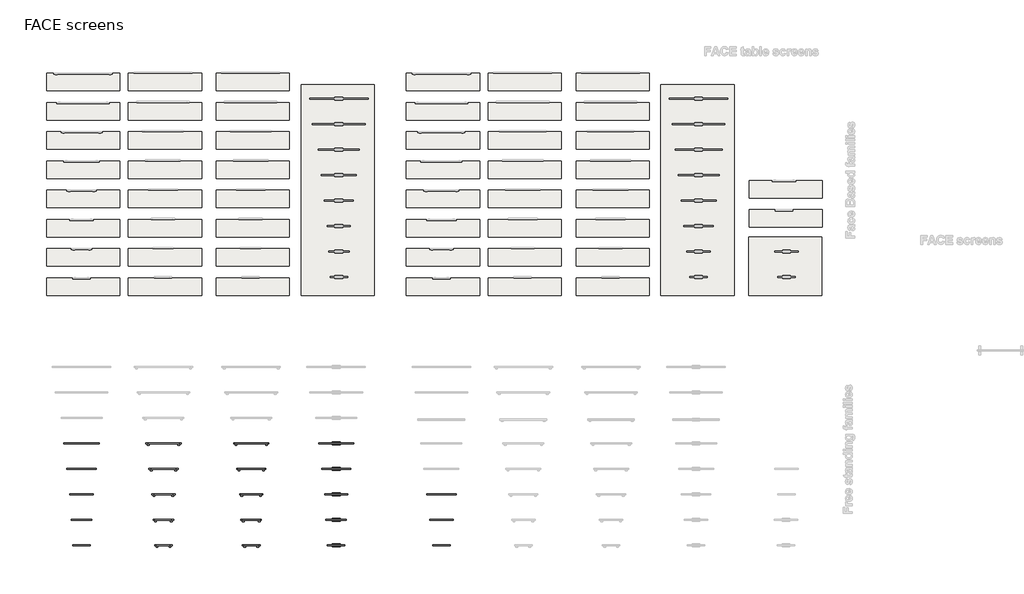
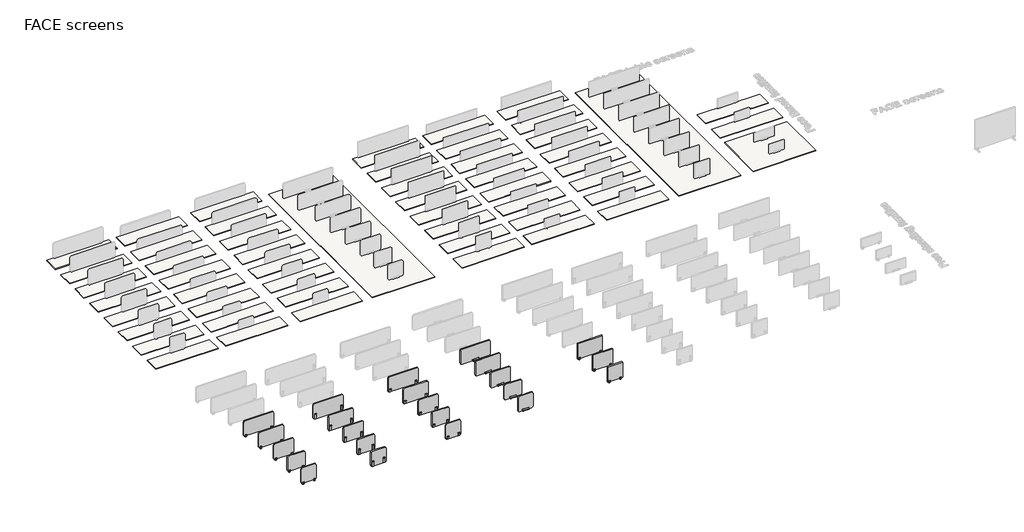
# One storey, part 1 of 5: 53 slabs, 23 furniture elements.
"""IFC4 building model written with IfcOpenShell, lengths in millimetres."""

from ifc_helpers import new_model, si_unit, frame, origin, place, context, project, spatial, polyline, outline, extrude, transform, mapped, element, save
from components import face_table_screen_100_3_95eb67a5, face_table_screen_100_3_8f296eb0, face_table_screen_120_3_0d3e1d8e, face_table_screen_120_3_c73d841a, face_table_screen_60_3_92aabae8, face_table_screen_60_3_c9fd3a59, face_table_screen_70_3_d5a7254b, face_table_screen_70_3_a536ad73, face_table_screen_80_3_7f900c10, face_table_screen_80_3_a9bba97a, face_table_screen_above_the_table_top_100_2_3b1e4d39, face_table_screen_above_the_table_top_120_2_89d26c9a, face_table_screen_above_the_table_top_60_2_7d289e71, face_table_screen_above_the_table_top_70_2_15536117, face_table_screen_above_the_table_top_706s06y_37ab495f, face_table_screen_above_the_table_top_706s08y_08bfc1dc, face_table_screen_above_the_table_top_706s10y_24b1e36f, face_table_screen_above_the_table_top_80_2_a9562ace, face_free_standing_table_screen_fb_100_1_674c9dfa, face_free_standing_table_screen_fb_120_1_8b9ce8e5, face_free_standing_table_screen_fb_60_1_81a4c0ed, face_free_standing_table_screen_fb_70_1_2_cb3a96f7, face_free_standing_table_screen_fb_80_1_d223b82d

model = new_model("IFC4")

# Units and contexts
model_context = context("Model", 3, world=origin())
ifc_project = project(units=[si_unit("LENGTHUNIT", "METRE", prefix="MILLI")], contexts=[model_context])

# Site, building, storey
site = spatial("IfcSite", under=ifc_project)
building = spatial("IfcBuilding", under=site)
storey = spatial("IfcBuildingStorey", under=building, Name="FACE screens", Elevation=0.0)

# Furniture
placement = place(None, origin())
face_table_screen_100_3_shape = face_table_screen_100_3_95eb67a5(model_context)
element("IfcFurniture", 1, ObjectType="Face Table Screen : 100-3", at=placement, inside=storey, context=model_context, shape_type="MappedRepresentation", body=[
    mapped(face_table_screen_100_3_shape, transform((-7165.8177914, 14756.5784777, 720.0), x_axis=(-1.0, 0.0, 0.0), y_axis=(0.0, -1.0, 0.0), z_axis=(0.0, 0.0, 1.0))),
])
face_table_screen_100_3_2_shape = face_table_screen_100_3_8f296eb0(model_context)
element("IfcFurniture", 2, ObjectType="Face Table Screen : 100-3", at=placement, inside=storey, context=model_context, shape_type="MappedRepresentation", body=[
    mapped(face_table_screen_100_3_2_shape, transform((-10165.8177914, 14756.5784777, 720.0), x_axis=(-1.0, 0.0, 0.0), y_axis=(0.0, -1.0, 0.0), z_axis=(0.0, 0.0, 1.0))),
])
face_table_screen_120_3_shape = face_table_screen_120_3_0d3e1d8e(model_context)
element("IfcFurniture", 3, ObjectType="Face Table Screen : 120-3", at=placement, inside=storey, context=model_context, shape_type="MappedRepresentation", body=[
    mapped(face_table_screen_120_3_shape, transform((-7165.8177914, 15628.0070491, 720.0), x_axis=(-1.0, 0.0, 0.0), y_axis=(0.0, -1.0, 0.0), z_axis=(0.0, 0.0, 1.0))),
])
face_table_screen_120_3_2_shape = face_table_screen_120_3_c73d841a(model_context)
element("IfcFurniture", 4, ObjectType="Face Table Screen : 120-3", at=placement, inside=storey, context=model_context, shape_type="MappedRepresentation", body=[
    mapped(face_table_screen_120_3_2_shape, transform((-10165.8177914, 15628.0070491, 720.0), x_axis=(-1.0, 0.0, 0.0), y_axis=(0.0, -1.0, 0.0), z_axis=(0.0, 0.0, 1.0))),
])
face_table_screen_60_3_shape = face_table_screen_60_3_92aabae8(model_context)
element("IfcFurniture", 5, ObjectType="Face Table Screen : 60-3", at=placement, inside=storey, context=model_context, shape_type="MappedRepresentation", body=[
    mapped(face_table_screen_60_3_shape, transform((-7165.8177914, 12142.2927634, 720.0), x_axis=(-1.0000000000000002, 0.0, 0.0), y_axis=(0.0, -1.0000000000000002, 0.0), z_axis=(0.0, 0.0, 1.0))),
])
face_table_screen_60_3_2_shape = face_table_screen_60_3_c9fd3a59(model_context)
element("IfcFurniture", 6, ObjectType="Face Table Screen : 60-3", at=placement, inside=storey, context=model_context, shape_type="MappedRepresentation", body=[
    mapped(face_table_screen_60_3_2_shape, transform((-10165.8177914, 12142.2927634, 720.0), x_axis=(-1.0000000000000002, 0.0, 0.0), y_axis=(0.0, -1.0000000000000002, 0.0), z_axis=(0.0, 0.0, 1.0))),
])
face_table_screen_70_3_shape = face_table_screen_70_3_d5a7254b(model_context)
element("IfcFurniture", 7, ObjectType="Face Table Screen : 70-3", at=placement, inside=storey, context=model_context, shape_type="MappedRepresentation", body=[
    mapped(face_table_screen_70_3_shape, transform((-7165.8177914, 13013.7213348, 720.0), x_axis=(-1.0000000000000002, 0.0, 0.0), y_axis=(0.0, -1.0000000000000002, 0.0), z_axis=(0.0, 0.0, 1.0))),
])
face_table_screen_70_3_2_shape = face_table_screen_70_3_a536ad73(model_context)
element("IfcFurniture", 8, ObjectType="Face Table Screen : 70-3", at=placement, inside=storey, context=model_context, shape_type="MappedRepresentation", body=[
    mapped(face_table_screen_70_3_2_shape, transform((-10165.8177914, 13013.7213348, 720.0), x_axis=(-1.0000000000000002, 0.0, 0.0), y_axis=(0.0, -1.0000000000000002, 0.0), z_axis=(0.0, 0.0, 1.0))),
])
face_table_screen_80_3_shape = face_table_screen_80_3_7f900c10(model_context)
element("IfcFurniture", 9, ObjectType="Face Table Screen : 80-3", at=placement, inside=storey, context=model_context, shape_type="MappedRepresentation", body=[
    mapped(face_table_screen_80_3_shape, transform((-7165.8177914, 13885.1499063, 720.0), x_axis=(-1.0, 0.0, 0.0), y_axis=(0.0, -1.0, 0.0), z_axis=(0.0, 0.0, 1.0))),
])
face_table_screen_80_3_2_shape = face_table_screen_80_3_a9bba97a(model_context)
element("IfcFurniture", 10, ObjectType="Face Table Screen : 80-3", at=placement, inside=storey, context=model_context, shape_type="MappedRepresentation", body=[
    mapped(face_table_screen_80_3_2_shape, transform((-10165.8177914, 13885.1499063, 720.0), x_axis=(-1.0, 0.0, 0.0), y_axis=(0.0, -1.0, 0.0), z_axis=(0.0, 0.0, 1.0))),
])
face_table_screen_above_the_table_top_100_2_shape = face_table_screen_above_the_table_top_100_2_3b1e4d39(model_context)
element("IfcFurniture", 11, ObjectType="Face Table Screen above the Table Top : 100-2", at=placement, inside=storey, context=model_context, shape_type="MappedRepresentation", body=[
    mapped(face_table_screen_above_the_table_top_100_2_shape, transform((-12965.8177914, 14756.5784777, 720.0), x_axis=(-1.0, 0.0, 0.0), y_axis=(0.0, -1.0, 0.0), z_axis=(0.0, 0.0, 1.0))),
])
face_table_screen_above_the_table_top_120_2_shape = face_table_screen_above_the_table_top_120_2_89d26c9a(model_context)
element("IfcFurniture", 12, ObjectType="Face Table Screen above the Table Top : 120-2", at=placement, inside=storey, context=model_context, shape_type="MappedRepresentation", body=[
    mapped(face_table_screen_above_the_table_top_120_2_shape, transform((-12965.8177914, 15628.0070491, 720.0), x_axis=(-1.0, 0.0, 0.0), y_axis=(0.0, -1.0, 0.0), z_axis=(0.0, 0.0, 1.0))),
])
face_table_screen_above_the_table_top_60_2_shape = face_table_screen_above_the_table_top_60_2_7d289e71(model_context)
element("IfcFurniture", 13, ObjectType="Face Table Screen above the Table Top : 60-2", at=placement, inside=storey, context=model_context, shape_type="MappedRepresentation", body=[
    mapped(face_table_screen_above_the_table_top_60_2_shape, transform((-12965.8177914, 12142.2927634, 720.0), x_axis=(-1.0000000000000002, 0.0, 0.0), y_axis=(0.0, -1.0000000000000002, 0.0), z_axis=(0.0, 0.0, 1.0))),
])
face_table_screen_above_the_table_top_70_2_shape = face_table_screen_above_the_table_top_70_2_15536117(model_context)
element("IfcFurniture", 14, ObjectType="Face Table Screen above the Table Top : 70-2", at=placement, inside=storey, context=model_context, shape_type="MappedRepresentation", body=[
    mapped(face_table_screen_above_the_table_top_70_2_shape, transform((-12965.8177914, 13013.7213348, 720.0), x_axis=(-1.0000000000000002, 0.0, 0.0), y_axis=(0.0, -1.0000000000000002, 0.0), z_axis=(0.0, 0.0, 1.0))),
])
face_table_screen_above_the_table_top_706s06y_shape = face_table_screen_above_the_table_top_706s06y_37ab495f(model_context)
element("IfcFurniture", 15, ObjectType="Face Table Screen above the Table Top : 706S06Y", at=placement, inside=storey, context=model_context, shape_type="MappedRepresentation", body=[
    mapped(face_table_screen_above_the_table_top_706s06y_shape, transform((-665.8177914, 12142.2927634, 720.0), x_axis=(-1.0000000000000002, 0.0, 0.0), y_axis=(0.0, -1.0000000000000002, 0.0), z_axis=(0.0, 0.0, 1.0))),
])
face_table_screen_above_the_table_top_706s08y_shape = face_table_screen_above_the_table_top_706s08y_08bfc1dc(model_context)
element("IfcFurniture", 16, ObjectType="Face Table Screen above the Table Top : 706S08Y", at=placement, inside=storey, context=model_context, shape_type="MappedRepresentation", body=[
    mapped(face_table_screen_above_the_table_top_706s08y_shape, transform((-665.8177914, 13013.7213348, 720.0), x_axis=(-1.0, 0.0, 0.0), y_axis=(0.0, -1.0, 0.0), z_axis=(0.0, 0.0, 1.0))),
])
face_table_screen_above_the_table_top_706s10y_shape = face_table_screen_above_the_table_top_706s10y_24b1e36f(model_context)
element("IfcFurniture", 17, ObjectType="Face Table Screen above the Table Top : 706S10Y", at=placement, inside=storey, context=model_context, shape_type="MappedRepresentation", body=[
    mapped(face_table_screen_above_the_table_top_706s10y_shape, transform((-665.8177914, 13885.1499063, 720.0), x_axis=(-1.0, 0.0, 0.0), y_axis=(0.0, -1.0, 0.0), z_axis=(0.0, 0.0, 1.0))),
])
face_table_screen_above_the_table_top_80_2_shape = face_table_screen_above_the_table_top_80_2_a9562ace(model_context)
element("IfcFurniture", 18, ObjectType="Face Table Screen above the Table Top : 80-2", at=placement, inside=storey, context=model_context, shape_type="MappedRepresentation", body=[
    mapped(face_table_screen_above_the_table_top_80_2_shape, transform((-12965.8177914, 13885.1499063, 720.0), x_axis=(-1.0, 0.0, 0.0), y_axis=(0.0, -1.0, 0.0), z_axis=(0.0, 0.0, 1.0))),
])
face_free_standing_table_screen_fb_100_1_shape = face_free_standing_table_screen_fb_100_1_674c9dfa(model_context)
element("IfcFurniture", 19, ObjectType="Face free-standing Table Screen : 100-1", at=placement, inside=storey, context=model_context, shape_type="MappedRepresentation", body=[
    mapped(face_free_standing_table_screen_fb_100_1_shape, transform((-4260.9202842, 14756.5784777, 720.0), x_axis=(-1.0, 0.0, 0.0), y_axis=(0.0, -1.0, 0.0), z_axis=(0.0, 0.0, 1.0))),
])
face_free_standing_table_screen_fb_120_1_shape = face_free_standing_table_screen_fb_120_1_8b9ce8e5(model_context)
element("IfcFurniture", 20, ObjectType="Face free-standing Table Screen : 120-1", at=placement, inside=storey, context=model_context, shape_type="MappedRepresentation", body=[
    mapped(face_free_standing_table_screen_fb_120_1_shape, transform((-4260.9202842, 15628.0070491, 720.0), x_axis=(-1.0, 0.0, 0.0), y_axis=(0.0, -1.0, 0.0), z_axis=(0.0, 0.0, 1.0))),
])
face_free_standing_table_screen_fb_60_1_shape = face_free_standing_table_screen_fb_60_1_81a4c0ed(model_context)
element("IfcFurniture", 21, ObjectType="Face free-standing Table Screen : 60-1", at=placement, inside=storey, context=model_context, shape_type="MappedRepresentation", body=[
    mapped(face_free_standing_table_screen_fb_60_1_shape, transform((-4260.9202842, 12142.2927634, 720.0), x_axis=(-1.0, 0.0, 0.0), y_axis=(0.0, -1.0, 0.0), z_axis=(0.0, 0.0, 1.0))),
])
face_free_standing_table_screen_fb_70_1_2_shape = face_free_standing_table_screen_fb_70_1_2_cb3a96f7(model_context)
element("IfcFurniture", 22, ObjectType="Face free-standing Table Screen : 70-1", at=placement, inside=storey, context=model_context, shape_type="MappedRepresentation", body=[
    mapped(face_free_standing_table_screen_fb_70_1_2_shape, transform((-4260.9202842, 13013.7213348, 720.0), x_axis=(-1.0, 0.0, 0.0), y_axis=(0.0, -1.0, 0.0), z_axis=(0.0, 0.0, 1.0))),
])
face_free_standing_table_screen_fb_80_1_shape = face_free_standing_table_screen_fb_80_1_d223b82d(model_context)
element("IfcFurniture", 23, ObjectType="Face free-standing Table Screen : 80-1", at=placement, inside=storey, context=model_context, shape_type="MappedRepresentation", body=[
    mapped(face_free_standing_table_screen_fb_80_1_shape, transform((-4260.9202842, 13885.1499063, 720.0), x_axis=(-1.0, 0.0, 0.0), y_axis=(0.0, -1.0, 0.0), z_axis=(0.0, 0.0, 1.0))),
])

# Slabs
element("IfcSlab", 24, ObjectType="Table Top 22", at=placement, inside=storey, context=model_context, shape_type="SweptSolid", body=[
    extrude(outline(polyline([(12337.7804077, 22692.7717693), (12337.7804077, 20692.7717693), (9837.7804077, 20692.7717693), (9837.7804077, 22692.7717693), (12337.7804077, 22692.7717693)])), frame((0.0, 0.0, 698.0), z_axis=(0.0, 0.0, 1.0), x_axis=(1.0, 0.0, 0.0)), (0.0, 0.0, 1.0), 22.0),
])
element("IfcSlab", 25, ObjectType="Table Top 22", at=placement, inside=storey, context=model_context, shape_type="SweptSolid", body=[
    extrude(outline(polyline([(9337.7804077, 27892.7717693), (9337.7804077, 20692.7717693), (6837.7804077, 20692.7717693), (6837.7804077, 27892.7717693), (9337.7804077, 27892.7717693)])), frame((0.0, 0.0, 698.0), z_axis=(0.0, 0.0, 1.0), x_axis=(1.0, 0.0, 0.0)), (0.0, 0.0, 1.0), 22.0),
])
element("IfcSlab", 26, ObjectType="Table Top 22", at=placement, inside=storey, context=model_context, shape_type="SweptSolid", body=[
    extrude(outline(polyline([(6437.7804077, 21292.7717693), (6437.7804077, 20692.7717693), (3937.7804077, 20692.7717693), (3937.7804077, 21292.7717693), (6437.7804077, 21292.7717693)])), frame((0.0, 0.0, 698.0), z_axis=(0.0, 0.0, 1.0), x_axis=(1.0, 0.0, 0.0)), (0.0, 0.0, 1.0), 22.0),
])
element("IfcSlab", 27, ObjectType="Table Top 22", at=placement, inside=storey, context=model_context, shape_type="SweptSolid", body=[
    extrude(outline(polyline([(6437.7804077, 22292.7717693), (6437.7804077, 21692.7717693), (3937.7804077, 21692.7717693), (3937.7804077, 22292.7717693), (6437.7804077, 22292.7717693)])), frame((0.0, 0.0, 698.0), z_axis=(0.0, 0.0, 1.0), x_axis=(1.0, 0.0, 0.0)), (0.0, 0.0, 1.0), 22.0),
])
element("IfcSlab", 28, ObjectType="Table Top 22", at=placement, inside=storey, context=model_context, shape_type="SweptSolid", body=[
    extrude(outline(polyline([(6437.7804077, 23292.7717693), (6437.7804077, 22692.7717693), (3937.7804077, 22692.7717693), (3937.7804077, 23292.7717693), (6437.7804077, 23292.7717693)])), frame((0.0, 0.0, 698.0), z_axis=(0.0, 0.0, 1.0), x_axis=(1.0, 0.0, 0.0)), (0.0, 0.0, 1.0), 22.0),
])
element("IfcSlab", 29, ObjectType="Table Top 22", at=placement, inside=storey, context=model_context, shape_type="SweptSolid", body=[
    extrude(outline(polyline([(6437.7804077, 24292.7717693), (6437.7804077, 23692.7717693), (3937.7804077, 23692.7717693), (3937.7804077, 24292.7717693), (6437.7804077, 24292.7717693)])), frame((0.0, 0.0, 698.0), z_axis=(0.0, 0.0, 1.0), x_axis=(1.0, 0.0, 0.0)), (0.0, 0.0, 1.0), 22.0),
])
element("IfcSlab", 30, ObjectType="Table Top 22", at=placement, inside=storey, context=model_context, shape_type="SweptSolid", body=[
    extrude(outline(polyline([(6437.7804077, 25292.7717693), (6437.7804077, 24692.7717693), (3937.7804077, 24692.7717693), (3937.7804077, 25292.7717693), (6437.7804077, 25292.7717693)])), frame((0.0, 0.0, 698.0), z_axis=(0.0, 0.0, 1.0), x_axis=(1.0, 0.0, 0.0)), (0.0, 0.0, 1.0), 22.0),
])
element("IfcSlab", 31, ObjectType="Table Top 22", at=placement, inside=storey, context=model_context, shape_type="SweptSolid", body=[
    extrude(outline(polyline([(6437.7804077, 26292.7717693), (6437.7804077, 25692.7717693), (3937.7804077, 25692.7717693), (3937.7804077, 26292.7717693), (6437.7804077, 26292.7717693)])), frame((0.0, 0.0, 698.0), z_axis=(0.0, 0.0, 1.0), x_axis=(1.0, 0.0, 0.0)), (0.0, 0.0, 1.0), 22.0),
])
element("IfcSlab", 32, ObjectType="Table Top 22", at=placement, inside=storey, context=model_context, shape_type="SweptSolid", body=[
    extrude(outline(polyline([(6437.7804077, 27292.7717693), (6437.7804077, 26692.7717693), (3937.7804077, 26692.7717693), (3937.7804077, 27292.7717693), (6437.7804077, 27292.7717693)])), frame((0.0, 0.0, 698.0), z_axis=(0.0, 0.0, 1.0), x_axis=(1.0, 0.0, 0.0)), (0.0, 0.0, 1.0), 22.0),
])
element("IfcSlab", 33, ObjectType="Table Top 22", at=placement, inside=storey, context=model_context, shape_type="SweptSolid", body=[
    extrude(outline(polyline([(6437.7804077, 28292.7717693), (6437.7804077, 27692.7717693), (3937.7804077, 27692.7717693), (3937.7804077, 28292.7717693), (6437.7804077, 28292.7717693)])), frame((0.0, 0.0, 698.0), z_axis=(0.0, 0.0, 1.0), x_axis=(1.0, 0.0, 0.0)), (0.0, 0.0, 1.0), 22.0),
])
element("IfcSlab", 34, ObjectType="Table Top 22", at=placement, inside=storey, context=model_context, shape_type="SweptSolid", body=[
    extrude(outline(polyline([(3437.7804077, 21292.7717693), (3437.7804077, 20692.7717693), (937.7804077, 20692.7717693), (937.7804077, 21292.7717693), (3437.7804077, 21292.7717693)])), frame((0.0, 0.0, 698.0), z_axis=(0.0, 0.0, 1.0), x_axis=(1.0, 0.0, 0.0)), (0.0, 0.0, 1.0), 22.0),
])
element("IfcSlab", 35, ObjectType="Table Top 22", at=placement, inside=storey, context=model_context, shape_type="SweptSolid", body=[
    extrude(outline(polyline([(3437.7804077, 22292.7717693), (3437.7804077, 21692.7717693), (937.7804077, 21692.7717693), (937.7804077, 22292.7717693), (3437.7804077, 22292.7717693)])), frame((0.0, 0.0, 698.0), z_axis=(0.0, 0.0, 1.0), x_axis=(1.0, 0.0, 0.0)), (0.0, 0.0, 1.0), 22.0),
])
element("IfcSlab", 36, ObjectType="Table Top 22", at=placement, inside=storey, context=model_context, shape_type="SweptSolid", body=[
    extrude(outline(polyline([(3437.7804077, 23292.7717693), (3437.7804077, 22692.7717693), (937.7804077, 22692.7717693), (937.7804077, 23292.7717693), (3437.7804077, 23292.7717693)])), frame((0.0, 0.0, 698.0), z_axis=(0.0, 0.0, 1.0), x_axis=(1.0, 0.0, 0.0)), (0.0, 0.0, 1.0), 22.0),
])
element("IfcSlab", 37, ObjectType="Table Top 22", at=placement, inside=storey, context=model_context, shape_type="SweptSolid", body=[
    extrude(outline(polyline([(3437.7804077, 24292.7717693), (3437.7804077, 23692.7717693), (937.7804077, 23692.7717693), (937.7804077, 24292.7717693), (3437.7804077, 24292.7717693)])), frame((0.0, 0.0, 698.0), z_axis=(0.0, 0.0, 1.0), x_axis=(1.0, 0.0, 0.0)), (0.0, 0.0, 1.0), 22.0),
])
element("IfcSlab", 38, ObjectType="Table Top 22", at=placement, inside=storey, context=model_context, shape_type="SweptSolid", body=[
    extrude(outline(polyline([(3437.7804077, 25292.7717693), (3437.7804077, 24692.7717693), (937.7804077, 24692.7717693), (937.7804077, 25292.7717693), (3437.7804077, 25292.7717693)])), frame((0.0, 0.0, 698.0), z_axis=(0.0, 0.0, 1.0), x_axis=(1.0, 0.0, 0.0)), (0.0, 0.0, 1.0), 22.0),
])
element("IfcSlab", 39, ObjectType="Table Top 22", at=placement, inside=storey, context=model_context, shape_type="SweptSolid", body=[
    extrude(outline(polyline([(3437.7804077, 26292.7717693), (3437.7804077, 25692.7717693), (937.7804077, 25692.7717693), (937.7804077, 26292.7717693), (3437.7804077, 26292.7717693)])), frame((0.0, 0.0, 698.0), z_axis=(0.0, 0.0, 1.0), x_axis=(1.0, 0.0, 0.0)), (0.0, 0.0, 1.0), 22.0),
])
element("IfcSlab", 40, ObjectType="Table Top 22", at=placement, inside=storey, context=model_context, shape_type="SweptSolid", body=[
    extrude(outline(polyline([(3437.7804077, 27292.7717693), (3437.7804077, 26692.7717693), (937.7804077, 26692.7717693), (937.7804077, 27292.7717693), (3437.7804077, 27292.7717693)])), frame((0.0, 0.0, 698.0), z_axis=(0.0, 0.0, 1.0), x_axis=(1.0, 0.0, 0.0)), (0.0, 0.0, 1.0), 22.0),
])
element("IfcSlab", 41, ObjectType="Table Top 22", at=placement, inside=storey, context=model_context, shape_type="SweptSolid", body=[
    extrude(outline(polyline([(3437.7804077, 28292.7717693), (3437.7804077, 27692.7717693), (937.7804077, 27692.7717693), (937.7804077, 28292.7717693), (3437.7804077, 28292.7717693)])), frame((0.0, 0.0, 698.0), z_axis=(0.0, 0.0, 1.0), x_axis=(1.0, 0.0, 0.0)), (0.0, 0.0, 1.0), 22.0),
])
element("IfcSlab", 42, ObjectType="Table Top 22", at=placement, inside=storey, context=model_context, shape_type="SweptSolid", body=[
    extrude(outline(polyline([(637.7804077, 21292.7717693), (637.7804077, 20692.7717693), (-1862.2195923, 20692.7717693), (-1862.2195923, 21292.7717693), (637.7804077, 21292.7717693)])), frame((0.0, 0.0, 698.0), z_axis=(0.0, 0.0, 1.0), x_axis=(1.0, 0.0, 0.0)), (0.0, 0.0, 1.0), 22.0),
])
element("IfcSlab", 43, ObjectType="Table Top 22", at=placement, inside=storey, context=model_context, shape_type="SweptSolid", body=[
    extrude(outline(polyline([(637.7804077, 22292.7717693), (637.7804077, 21692.7717693), (-1862.2195923, 21692.7717693), (-1862.2195923, 22292.7717693), (637.7804077, 22292.7717693)])), frame((0.0, 0.0, 698.0), z_axis=(0.0, 0.0, 1.0), x_axis=(1.0, 0.0, 0.0)), (0.0, 0.0, 1.0), 22.0),
])
element("IfcSlab", 44, ObjectType="Table Top 22", at=placement, inside=storey, context=model_context, shape_type="SweptSolid", body=[
    extrude(outline(polyline([(637.7804077, 23292.7717693), (637.7804077, 22692.7717693), (-1862.2195923, 22692.7717693), (-1862.2195923, 23292.7717693), (637.7804077, 23292.7717693)])), frame((0.0, 0.0, 698.0), z_axis=(0.0, 0.0, 1.0), x_axis=(1.0, 0.0, 0.0)), (0.0, 0.0, 1.0), 22.0),
])
element("IfcSlab", 45, ObjectType="Table Top 22", at=placement, inside=storey, context=model_context, shape_type="SweptSolid", body=[
    extrude(outline(polyline([(637.7804077, 24292.7717693), (637.7804077, 23692.7717693), (-1862.2195923, 23692.7717693), (-1862.2195923, 24292.7717693), (637.7804077, 24292.7717693)])), frame((0.0, 0.0, 698.0), z_axis=(0.0, 0.0, 1.0), x_axis=(1.0, 0.0, 0.0)), (0.0, 0.0, 1.0), 22.0),
])
element("IfcSlab", 46, ObjectType="Table Top 22", at=placement, inside=storey, context=model_context, shape_type="SweptSolid", body=[
    extrude(outline(polyline([(637.7804077, 25292.7717693), (637.7804077, 24692.7717693), (-1862.2195923, 24692.7717693), (-1862.2195923, 25292.7717693), (637.7804077, 25292.7717693)])), frame((0.0, 0.0, 698.0), z_axis=(0.0, 0.0, 1.0), x_axis=(1.0, 0.0, 0.0)), (0.0, 0.0, 1.0), 22.0),
])
element("IfcSlab", 47, ObjectType="Table Top 22", at=placement, inside=storey, context=model_context, shape_type="SweptSolid", body=[
    extrude(outline(polyline([(637.7804077, 26292.7717693), (637.7804077, 25692.7717693), (-1862.2195923, 25692.7717693), (-1862.2195923, 26292.7717693), (637.7804077, 26292.7717693)])), frame((0.0, 0.0, 698.0), z_axis=(0.0, 0.0, 1.0), x_axis=(1.0, 0.0, 0.0)), (0.0, 0.0, 1.0), 22.0),
])
element("IfcSlab", 48, ObjectType="Table Top 22", at=placement, inside=storey, context=model_context, shape_type="SweptSolid", body=[
    extrude(outline(polyline([(637.7804077, 27292.7717693), (637.7804077, 26692.7717693), (-1862.2195923, 26692.7717693), (-1862.2195923, 27292.7717693), (637.7804077, 27292.7717693)])), frame((0.0, 0.0, 698.0), z_axis=(0.0, 0.0, 1.0), x_axis=(1.0, 0.0, 0.0)), (0.0, 0.0, 1.0), 22.0),
])
element("IfcSlab", 49, ObjectType="Table Top 22", at=placement, inside=storey, context=model_context, shape_type="SweptSolid", body=[
    extrude(outline(polyline([(637.7804077, 28292.7717693), (637.7804077, 27692.7717693), (-1862.2195923, 27692.7717693), (-1862.2195923, 28292.7717693), (637.7804077, 28292.7717693)])), frame((0.0, 0.0, 698.0), z_axis=(0.0, 0.0, 1.0), x_axis=(1.0, 0.0, 0.0)), (0.0, 0.0, 1.0), 22.0),
])
element("IfcSlab", 50, ObjectType="Table Top 22", at=placement, inside=storey, context=model_context, shape_type="SweptSolid", body=[
    extrude(outline(polyline([(-2962.2195923, 27892.7717693), (-2962.2195923, 20692.7717693), (-5462.2195923, 20692.7717693), (-5462.2195923, 27892.7717693), (-2962.2195923, 27892.7717693)])), frame((0.0, 0.0, 698.0), z_axis=(0.0, 0.0, 1.0), x_axis=(1.0, 0.0, 0.0)), (0.0, 0.0, 1.0), 22.0),
])
element("IfcSlab", 51, ObjectType="Table Top 22", at=placement, inside=storey, context=model_context, shape_type="SweptSolid", body=[
    extrude(outline(polyline([(-5862.2195923, 22292.7717693), (-5862.2195923, 21692.7717693), (-8362.2195923, 21692.7717693), (-8362.2195923, 22292.7717693), (-5862.2195923, 22292.7717693)])), frame((0.0, 0.0, 698.0), z_axis=(0.0, 0.0, 1.0), x_axis=(1.0, 0.0, 0.0)), (0.0, 0.0, 1.0), 22.0),
])
element("IfcSlab", 52, ObjectType="Table Top 22", at=placement, inside=storey, context=model_context, shape_type="SweptSolid", body=[
    extrude(outline(polyline([(-5862.2195923, 23292.7717693), (-5862.2195923, 22692.7717693), (-8362.2195923, 22692.7717693), (-8362.2195923, 23292.7717693), (-5862.2195923, 23292.7717693)])), frame((0.0, 0.0, 698.0), z_axis=(0.0, 0.0, 1.0), x_axis=(1.0, 0.0, 0.0)), (0.0, 0.0, 1.0), 22.0),
])
element("IfcSlab", 53, ObjectType="Table Top 22", at=placement, inside=storey, context=model_context, shape_type="SweptSolid", body=[
    extrude(outline(polyline([(-5862.2195923, 24292.7717693), (-5862.2195923, 23692.7717693), (-8362.2195923, 23692.7717693), (-8362.2195923, 24292.7717693), (-5862.2195923, 24292.7717693)])), frame((0.0, 0.0, 698.0), z_axis=(0.0, 0.0, 1.0), x_axis=(1.0, 0.0, 0.0)), (0.0, 0.0, 1.0), 22.0),
])
element("IfcSlab", 54, ObjectType="Table Top 22", at=placement, inside=storey, context=model_context, shape_type="SweptSolid", body=[
    extrude(outline(polyline([(-5862.2195923, 25292.7717693), (-5862.2195923, 24692.7717693), (-8362.2195923, 24692.7717693), (-8362.2195923, 25292.7717693), (-5862.2195923, 25292.7717693)])), frame((0.0, 0.0, 698.0), z_axis=(0.0, 0.0, 1.0), x_axis=(1.0, 0.0, 0.0)), (0.0, 0.0, 1.0), 22.0),
])
element("IfcSlab", 55, ObjectType="Table Top 22", at=placement, inside=storey, context=model_context, shape_type="SweptSolid", body=[
    extrude(outline(polyline([(-5862.2195923, 26292.7717693), (-5862.2195923, 25692.7717693), (-8362.2195923, 25692.7717693), (-8362.2195923, 26292.7717693), (-5862.2195923, 26292.7717693)])), frame((0.0, 0.0, 698.0), z_axis=(0.0, 0.0, 1.0), x_axis=(1.0, 0.0, 0.0)), (0.0, 0.0, 1.0), 22.0),
])
element("IfcSlab", 56, ObjectType="Table Top 22", at=placement, inside=storey, context=model_context, shape_type="SweptSolid", body=[
    extrude(outline(polyline([(-5862.2195923, 27292.7717693), (-5862.2195923, 26692.7717693), (-8362.2195923, 26692.7717693), (-8362.2195923, 27292.7717693), (-5862.2195923, 27292.7717693)])), frame((0.0, 0.0, 698.0), z_axis=(0.0, 0.0, 1.0), x_axis=(1.0, 0.0, 0.0)), (0.0, 0.0, 1.0), 22.0),
])
element("IfcSlab", 57, ObjectType="Table Top 22", at=placement, inside=storey, context=model_context, shape_type="SweptSolid", body=[
    extrude(outline(polyline([(-5862.2195923, 28292.7717693), (-5862.2195923, 27692.7717693), (-8362.2195923, 27692.7717693), (-8362.2195923, 28292.7717693), (-5862.2195923, 28292.7717693)])), frame((0.0, 0.0, 698.0), z_axis=(0.0, 0.0, 1.0), x_axis=(1.0, 0.0, 0.0)), (0.0, 0.0, 1.0), 22.0),
])
element("IfcSlab", 58, ObjectType="Table Top 22", at=placement, inside=storey, context=model_context, shape_type="SweptSolid", body=[
    extrude(outline(polyline([(-8862.2195923, 22292.7717693), (-8862.2195923, 21692.7717693), (-11362.2195923, 21692.7717693), (-11362.2195923, 22292.7717693), (-8862.2195923, 22292.7717693)])), frame((0.0, 0.0, 698.0), z_axis=(0.0, 0.0, 1.0), x_axis=(1.0, 0.0, 0.0)), (0.0, 0.0, 1.0), 22.0),
])
element("IfcSlab", 59, ObjectType="Table Top 22", at=placement, inside=storey, context=model_context, shape_type="SweptSolid", body=[
    extrude(outline(polyline([(-8862.2195923, 23292.7717693), (-8862.2195923, 22692.7717693), (-11362.2195923, 22692.7717693), (-11362.2195923, 23292.7717693), (-8862.2195923, 23292.7717693)])), frame((0.0, 0.0, 698.0), z_axis=(0.0, 0.0, 1.0), x_axis=(1.0, 0.0, 0.0)), (0.0, 0.0, 1.0), 22.0),
])
element("IfcSlab", 60, ObjectType="Table Top 22", at=placement, inside=storey, context=model_context, shape_type="SweptSolid", body=[
    extrude(outline(polyline([(-8862.2195923, 24292.7717693), (-8862.2195923, 23692.7717693), (-11362.2195923, 23692.7717693), (-11362.2195923, 24292.7717693), (-8862.2195923, 24292.7717693)])), frame((0.0, 0.0, 698.0), z_axis=(0.0, 0.0, 1.0), x_axis=(1.0, 0.0, 0.0)), (0.0, 0.0, 1.0), 22.0),
])
element("IfcSlab", 61, ObjectType="Table Top 22", at=placement, inside=storey, context=model_context, shape_type="SweptSolid", body=[
    extrude(outline(polyline([(-8862.2195923, 25292.7717693), (-8862.2195923, 24692.7717693), (-11362.2195923, 24692.7717693), (-11362.2195923, 25292.7717693), (-8862.2195923, 25292.7717693)])), frame((0.0, 0.0, 698.0), z_axis=(0.0, 0.0, 1.0), x_axis=(1.0, 0.0, 0.0)), (0.0, 0.0, 1.0), 22.0),
])
element("IfcSlab", 62, ObjectType="Table Top 22", at=placement, inside=storey, context=model_context, shape_type="SweptSolid", body=[
    extrude(outline(polyline([(-8862.2195923, 26292.7717693), (-8862.2195923, 25692.7717693), (-11362.2195923, 25692.7717693), (-11362.2195923, 26292.7717693), (-8862.2195923, 26292.7717693)])), frame((0.0, 0.0, 698.0), z_axis=(0.0, 0.0, 1.0), x_axis=(1.0, 0.0, 0.0)), (0.0, 0.0, 1.0), 22.0),
])
element("IfcSlab", 63, ObjectType="Table Top 22", at=placement, inside=storey, context=model_context, shape_type="SweptSolid", body=[
    extrude(outline(polyline([(-8862.2195923, 27292.7717693), (-8862.2195923, 26692.7717693), (-11362.2195923, 26692.7717693), (-11362.2195923, 27292.7717693), (-8862.2195923, 27292.7717693)])), frame((0.0, 0.0, 698.0), z_axis=(0.0, 0.0, 1.0), x_axis=(1.0, 0.0, 0.0)), (0.0, 0.0, 1.0), 22.0),
])
element("IfcSlab", 64, ObjectType="Table Top 22", at=placement, inside=storey, context=model_context, shape_type="SweptSolid", body=[
    extrude(outline(polyline([(-8862.2195923, 28292.7717693), (-8862.2195923, 27692.7717693), (-11362.2195923, 27692.7717693), (-11362.2195923, 28292.7717693), (-8862.2195923, 28292.7717693)])), frame((0.0, 0.0, 698.0), z_axis=(0.0, 0.0, 1.0), x_axis=(1.0, 0.0, 0.0)), (0.0, 0.0, 1.0), 22.0),
])
element("IfcSlab", 65, ObjectType="Table Top 22", at=placement, inside=storey, context=model_context, shape_type="SweptSolid", body=[
    extrude(outline(polyline([(-11662.2195923, 22292.7717693), (-11662.2195923, 21692.7717693), (-14162.2195923, 21692.7717693), (-14162.2195923, 22292.7717693), (-11662.2195923, 22292.7717693)])), frame((0.0, 0.0, 698.0), z_axis=(0.0, 0.0, 1.0), x_axis=(1.0, 0.0, 0.0)), (0.0, 0.0, 1.0), 22.0),
])
element("IfcSlab", 66, ObjectType="Table Top 22", at=placement, inside=storey, context=model_context, shape_type="SweptSolid", body=[
    extrude(outline(polyline([(-11662.2195923, 23292.7717693), (-11662.2195923, 22692.7717693), (-14162.2195923, 22692.7717693), (-14162.2195923, 23292.7717693), (-11662.2195923, 23292.7717693)])), frame((0.0, 0.0, 698.0), z_axis=(0.0, 0.0, 1.0), x_axis=(1.0, 0.0, 0.0)), (0.0, 0.0, 1.0), 22.0),
])
element("IfcSlab", 67, ObjectType="Table Top 22", at=placement, inside=storey, context=model_context, shape_type="SweptSolid", body=[
    extrude(outline(polyline([(-11662.2195923, 24292.7717693), (-11662.2195923, 23692.7717693), (-14162.2195923, 23692.7717693), (-14162.2195923, 24292.7717693), (-11662.2195923, 24292.7717693)])), frame((0.0, 0.0, 698.0), z_axis=(0.0, 0.0, 1.0), x_axis=(1.0, 0.0, 0.0)), (0.0, 0.0, 1.0), 22.0),
])
element("IfcSlab", 68, ObjectType="Table Top 22", at=placement, inside=storey, context=model_context, shape_type="SweptSolid", body=[
    extrude(outline(polyline([(-11662.2195923, 25292.7717693), (-11662.2195923, 24692.7717693), (-14162.2195923, 24692.7717693), (-14162.2195923, 25292.7717693), (-11662.2195923, 25292.7717693)])), frame((0.0, 0.0, 698.0), z_axis=(0.0, 0.0, 1.0), x_axis=(1.0, 0.0, 0.0)), (0.0, 0.0, 1.0), 22.0),
])
element("IfcSlab", 69, ObjectType="Table Top 22", at=placement, inside=storey, context=model_context, shape_type="SweptSolid", body=[
    extrude(outline(polyline([(-11662.2195923, 26292.7717693), (-11662.2195923, 25692.7717693), (-14162.2195923, 25692.7717693), (-14162.2195923, 26292.7717693), (-11662.2195923, 26292.7717693)])), frame((0.0, 0.0, 698.0), z_axis=(0.0, 0.0, 1.0), x_axis=(1.0, 0.0, 0.0)), (0.0, 0.0, 1.0), 22.0),
])
element("IfcSlab", 70, ObjectType="Table Top 22", at=placement, inside=storey, context=model_context, shape_type="SweptSolid", body=[
    extrude(outline(polyline([(-11662.2195923, 27292.7717693), (-11662.2195923, 26692.7717693), (-14162.2195923, 26692.7717693), (-14162.2195923, 27292.7717693), (-11662.2195923, 27292.7717693)])), frame((0.0, 0.0, 698.0), z_axis=(0.0, 0.0, 1.0), x_axis=(1.0, 0.0, 0.0)), (0.0, 0.0, 1.0), 22.0),
])
element("IfcSlab", 71, ObjectType="Table Top 22", at=placement, inside=storey, context=model_context, shape_type="SweptSolid", body=[
    extrude(outline(polyline([(-11662.2195923, 28292.7717693), (-11662.2195923, 27692.7717693), (-14162.2195923, 27692.7717693), (-14162.2195923, 28292.7717693), (-11662.2195923, 28292.7717693)])), frame((0.0, 0.0, 698.0), z_axis=(0.0, 0.0, 1.0), x_axis=(1.0, 0.0, 0.0)), (0.0, 0.0, 1.0), 22.0),
])
element("IfcSlab", 72, ObjectType="Table Top 22", at=placement, inside=storey, context=model_context, shape_type="SweptSolid", body=[
    extrude(outline(polyline([(12354.3366826, 23623.6452984), (12354.3366826, 23023.6452984), (9854.3366826, 23023.6452984), (9854.3366826, 23623.6452984), (12354.3366826, 23623.6452984)])), frame((0.0, 0.0, 698.0), z_axis=(0.0, 0.0, 1.0), x_axis=(1.0, 0.0, 0.0)), (0.0, 0.0, 1.0), 22.0),
])
element("IfcSlab", 73, ObjectType="Table Top 22", at=placement, inside=storey, context=model_context, shape_type="SweptSolid", body=[
    extrude(outline(polyline([(12354.3366826, 24623.6452984), (12354.3366826, 24023.6452984), (9854.3366826, 24023.6452984), (9854.3366826, 24623.6452984), (12354.3366826, 24623.6452984)])), frame((0.0, 0.0, 698.0), z_axis=(0.0, 0.0, 1.0), x_axis=(1.0, 0.0, 0.0)), (0.0, 0.0, 1.0), 22.0),
])
element("IfcSlab", 74, ObjectType="Table Top 22", at=placement, inside=storey, context=model_context, shape_type="SweptSolid", body=[
    extrude(outline(polyline([(-5862.2195923, 21292.7717693), (-5862.2195923, 20692.7717693), (-8362.2195923, 20692.7717693), (-8362.2195923, 21292.7717693), (-5862.2195923, 21292.7717693)])), frame((0.0, 0.0, 698.0), z_axis=(0.0, 0.0, 1.0), x_axis=(1.0, 0.0, 0.0)), (0.0, 0.0, 1.0), 22.0),
])
element("IfcSlab", 75, ObjectType="Table Top 22", at=placement, inside=storey, context=model_context, shape_type="SweptSolid", body=[
    extrude(outline(polyline([(-8862.2195923, 21292.7717693), (-8862.2195923, 20692.7717693), (-11362.2195923, 20692.7717693), (-11362.2195923, 21292.7717693), (-8862.2195923, 21292.7717693)])), frame((0.0, 0.0, 698.0), z_axis=(0.0, 0.0, 1.0), x_axis=(1.0, 0.0, 0.0)), (0.0, 0.0, 1.0), 22.0),
])
element("IfcSlab", 76, ObjectType="Table Top 22", at=placement, inside=storey, context=model_context, shape_type="SweptSolid", body=[
    extrude(outline(polyline([(-11662.2195923, 21292.7717693), (-11662.2195923, 20692.7717693), (-14162.2195923, 20692.7717693), (-14162.2195923, 21292.7717693), (-11662.2195923, 21292.7717693)])), frame((0.0, 0.0, 698.0), z_axis=(0.0, 0.0, 1.0), x_axis=(1.0, 0.0, 0.0)), (0.0, 0.0, 1.0), 22.0),
])

save(model, "model.ifc")
